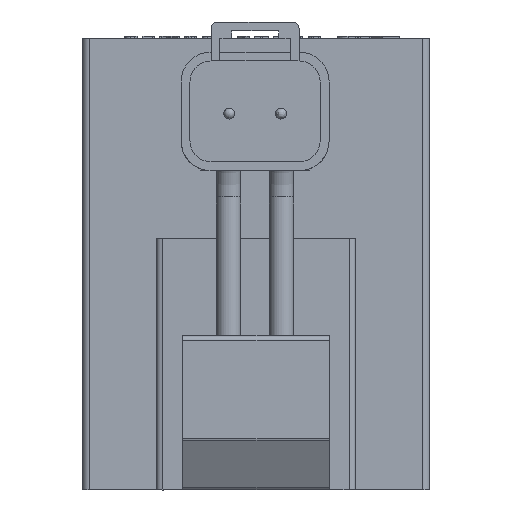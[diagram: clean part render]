
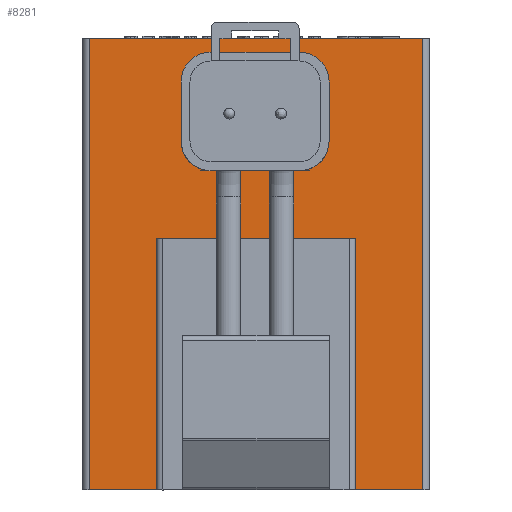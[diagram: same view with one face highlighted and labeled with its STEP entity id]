
A CAD part, front view. The second image highlights one B-rep face of the part: STEP entity #8281.
In plain terms, the highlighted planar face has unit normal (0, -1, 0).
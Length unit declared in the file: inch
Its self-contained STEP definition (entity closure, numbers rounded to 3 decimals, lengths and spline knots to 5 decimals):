
#7816=CARTESIAN_POINT('',(-0.74998,-1.055,2.149));
#7817=VERTEX_POINT('',#7816);
#7827=CARTESIAN_POINT('',(0.74998,-1.055,2.149));
#7828=VERTEX_POINT('',#7827);
#7829=CARTESIAN_POINT('',(0.74998,-1.055,2.149));
#7830=DIRECTION('',(-1.0,0.0,0.0));
#7831=VECTOR('',#7830,1.49996);
#7832=LINE('',#7829,#7831);
#7833=EDGE_CURVE('',#7828,#7817,#7832,.T.);
#7936=CARTESIAN_POINT('',(-0.74998,-1.055,0.119));
#7937=VERTEX_POINT('',#7936);
#7938=CARTESIAN_POINT('',(-0.44964,-1.055,0.119));
#7939=VERTEX_POINT('',#7938);
#7940=CARTESIAN_POINT('',(-0.74998,-1.055,0.119));
#7941=DIRECTION('',(1.0,0.0,0.0));
#7942=VECTOR('',#7941,0.30034);
#7943=LINE('',#7940,#7942);
#7944=EDGE_CURVE('',#7937,#7939,#7943,.T.);
#7980=CARTESIAN_POINT('',(0.74998,-1.055,0.119));
#7981=VERTEX_POINT('',#7980);
#7989=CARTESIAN_POINT('',(0.44964,-1.055,0.119));
#7990=VERTEX_POINT('',#7989);
#7991=CARTESIAN_POINT('',(0.44964,-1.055,0.119));
#7992=DIRECTION('',(1.0,0.0,0.0));
#7993=VECTOR('',#7992,0.30034);
#7994=LINE('',#7991,#7993);
#7995=EDGE_CURVE('',#7990,#7981,#7994,.T.);
#8071=CARTESIAN_POINT('',(-0.74998,-1.055,2.149));
#8072=DIRECTION('',(0.0,0.0,-1.0));
#8073=VECTOR('',#8072,2.03);
#8074=LINE('',#8071,#8073);
#8075=EDGE_CURVE('',#7817,#7937,#8074,.T.);
#8238=CARTESIAN_POINT('',(0.74998,-1.055,2.149));
#8239=DIRECTION('',(0.0,0.0,-1.0));
#8240=VECTOR('',#8239,2.03);
#8241=LINE('',#8238,#8240);
#8242=EDGE_CURVE('',#7828,#7981,#8241,.T.);
#8247=CARTESIAN_POINT('',(-0.74998,-1.055,2.149));
#8248=DIRECTION('',(0.0,-1.0,0.0));
#8249=DIRECTION('',(0.0,0.0,1.0));
#8250=AXIS2_PLACEMENT_3D('',#8247,#8248,#8249);
#8251=PLANE('',#8250);
#8252=CARTESIAN_POINT('',(0.44964,-1.055,1.249));
#8253=VERTEX_POINT('',#8252);
#8254=CARTESIAN_POINT('',(0.44964,-1.055,1.249));
#8255=DIRECTION('',(0.0,0.0,-1.0));
#8256=VECTOR('',#8255,1.13);
#8257=LINE('',#8254,#8256);
#8258=EDGE_CURVE('',#8253,#7990,#8257,.T.);
#8259=ORIENTED_EDGE('',*,*,#8258,.T.);
#8260=ORIENTED_EDGE('',*,*,#7995,.T.);
#8261=ORIENTED_EDGE('',*,*,#8242,.F.);
#8262=ORIENTED_EDGE('',*,*,#7833,.T.);
#8263=ORIENTED_EDGE('',*,*,#8075,.T.);
#8264=ORIENTED_EDGE('',*,*,#7944,.T.);
#8265=CARTESIAN_POINT('',(-0.44964,-1.055,1.249));
#8266=VERTEX_POINT('',#8265);
#8267=CARTESIAN_POINT('',(-0.44964,-1.055,0.119));
#8268=DIRECTION('',(0.0,0.0,1.0));
#8269=VECTOR('',#8268,1.13);
#8270=LINE('',#8267,#8269);
#8271=EDGE_CURVE('',#7939,#8266,#8270,.T.);
#8272=ORIENTED_EDGE('',*,*,#8271,.T.);
#8273=CARTESIAN_POINT('',(-0.44964,-1.055,1.249));
#8274=DIRECTION('',(1.0,0.0,0.0));
#8275=VECTOR('',#8274,0.89928);
#8276=LINE('',#8273,#8275);
#8277=EDGE_CURVE('',#8266,#8253,#8276,.T.);
#8278=ORIENTED_EDGE('',*,*,#8277,.T.);
#8279=EDGE_LOOP('',(#8259,#8260,#8261,#8262,#8263,#8264,#8272,#8278));
#8280=FACE_OUTER_BOUND('',#8279,.T.);
#8281=ADVANCED_FACE('',(#8280),#8251,.T.);
